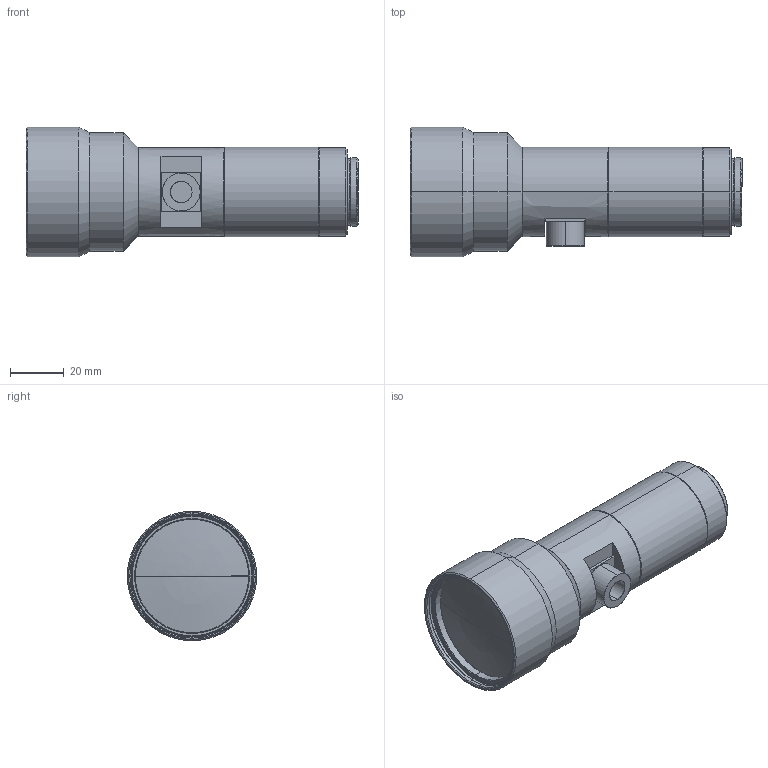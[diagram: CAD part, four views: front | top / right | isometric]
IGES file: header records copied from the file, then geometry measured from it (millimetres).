
Start section: SolidWorks IGES file using analytic representation for surfaces
Bounding box: 122.97 x 48 x 48 mm (x, y, z)
Surface area: 19871.3 mm2 (no closed solid volume)
Topology: 0 solids, 0 shells, 103 faces, 1582 edges, 1581 vertices
Faces by surface type: revolution 82, bspline 21
